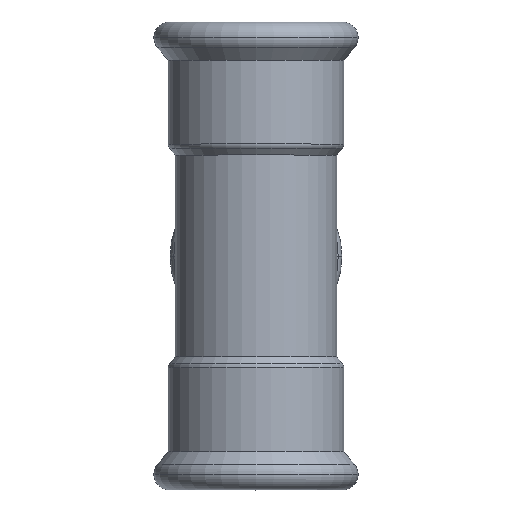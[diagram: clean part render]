
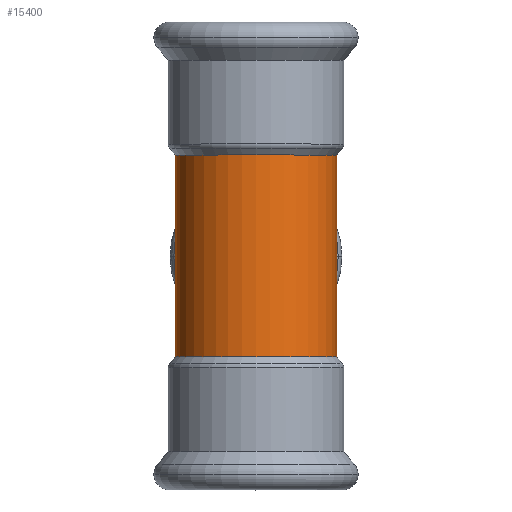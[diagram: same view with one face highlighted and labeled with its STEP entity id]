
A CAD part, top view. The second image highlights one B-rep face of the part: STEP entity #15400.
In plain terms, the highlighted cylindrical face has radius 17.594 mm (diameter 35.189 mm), a partial arc.
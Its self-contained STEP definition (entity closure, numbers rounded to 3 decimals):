
#5620=CARTESIAN_POINT('',(-404.306,10.673,
-22.));
#5630=DIRECTION('',(0.,0.,-1.));
#5640=DIRECTION('',(-1.,0.,0.));
#5650=AXIS2_PLACEMENT_3D('',#5620,#5630,#5640);
#5660=CYLINDRICAL_SURFACE('',#5650,17.594);
#10300=CARTESIAN_POINT('',(-421.9,10.673,
22.));
#10310=VERTEX_POINT('',#10300);
#10400=CARTESIAN_POINT('',(-386.712,10.673,
22.));
#10410=VERTEX_POINT('',#10400);
#10440=CARTESIAN_POINT('',(-404.306,10.673,
22.));
#10450=DIRECTION('',(0.,0.,1.));
#10460=DIRECTION('',(1.,0.,0.));
#10470=AXIS2_PLACEMENT_3D('',#10440,#10450,#10460);
#10480=CIRCLE('',#10470,17.594);
#10490=EDGE_CURVE('',#10310,#10410,#10480,.T.);
#15140=CARTESIAN_POINT('',(-386.712,10.673,
-22.));
#15150=DIRECTION('',(0.,0.,-1.));
#15160=VECTOR('',#15150,1.);
#15170=LINE('',#15140,#15160);
#15180=CARTESIAN_POINT('',(-386.712,10.673,
-22.));
#15190=VERTEX_POINT('',#15180);
#15200=EDGE_CURVE('',#10410,#15190,#15170,.T.);
#15210=ORIENTED_EDGE('',*,*,#15200,.F.);
#15220=CARTESIAN_POINT('',(-404.306,10.673,
-22.));
#15230=DIRECTION('',(0.,0.,-1.));
#15240=DIRECTION('',(-1.,0.,0.));
#15250=AXIS2_PLACEMENT_3D('',#15220,#15230,#15240);
#15260=CIRCLE('',#15250,17.594);
#15270=CARTESIAN_POINT('',(-421.9,10.673,
-22.));
#15280=VERTEX_POINT('',#15270);
#15290=EDGE_CURVE('',#15190,#15280,#15260,.T.);
#15300=ORIENTED_EDGE('',*,*,#15290,.F.);
#15310=CARTESIAN_POINT('',(-421.9,10.673,
-22.));
#15320=DIRECTION('',(0.,0.,-1.));
#15330=VECTOR('',#15320,1.);
#15340=LINE('',#15310,#15330);
#15350=EDGE_CURVE('',#10310,#15280,#15340,.T.);
#15360=ORIENTED_EDGE('',*,*,#15350,.T.);
#15370=ORIENTED_EDGE('',*,*,#10490,.F.);
#15380=EDGE_LOOP('',(#15370,#15360,#15300,#15210));
#15390=FACE_OUTER_BOUND('',#15380,.T.);
#15400=ADVANCED_FACE('',(#15390),#5660,.T.);
